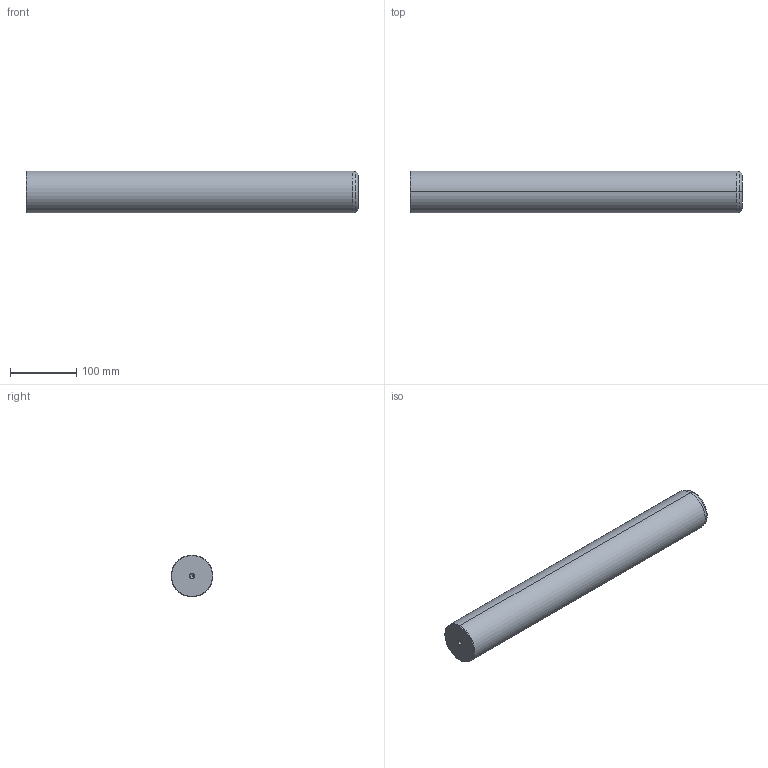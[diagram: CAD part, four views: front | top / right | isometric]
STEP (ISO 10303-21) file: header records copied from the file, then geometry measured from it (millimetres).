
FILE_DESCRIPTION(('CATIA V5 STEP Exchange'),'2;1');
FILE_NAME('C:\Users\Utente\Desktop\IO LAVORO\3D X SITO CF\X SITO\720\720-63x500.stp','2020-12-30T21:25:03+00:00',('none'),('none'),'CATIA Version 5 Release 20 GA (IN-10)','CATIA V5 STEP AP203','none');
FILE_SCHEMA(('CONFIG_CONTROL_DESIGN'));
Length unit declared in the file: millimetre
Products named in the file (1): 720-63x500
Bounding box: 500 x 63 x 63 mm (x, y, z)
Volume: 1554677.6 mm3; surface area: 105482.7 mm2
Topology: 1 solids, 1 shells, 22 faces, 62 edges, 40 vertices
Faces by surface type: cone 12, cylinder 6, plane 2, torus 2
Entity records: 806 total; most frequent: CARTESIAN_POINT 229, ORIENTED_EDGE 116, DIRECTION 93, EDGE_CURVE 58, AXIS2_PLACEMENT_3D 54, VERTEX_POINT 40, CIRCLE 31, EDGE_LOOP 24
